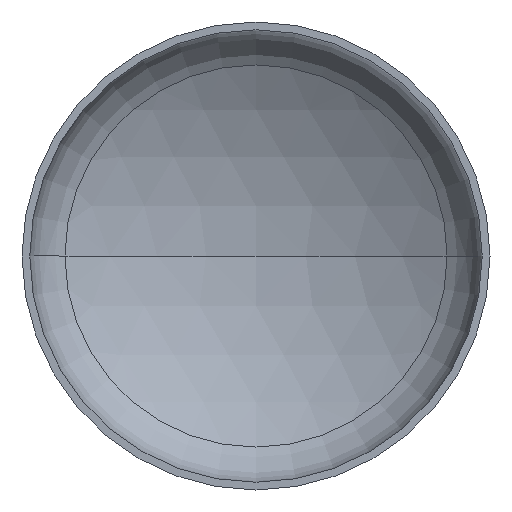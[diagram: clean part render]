
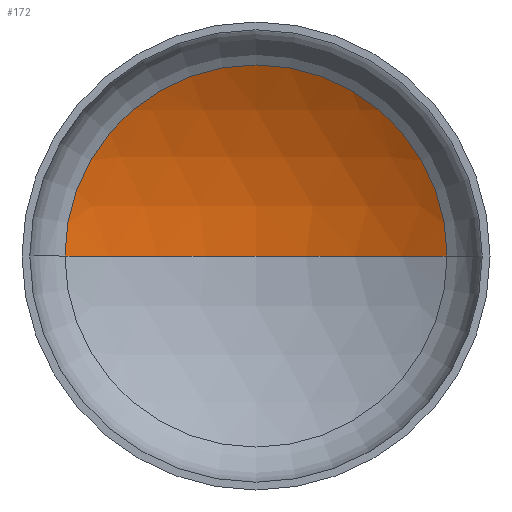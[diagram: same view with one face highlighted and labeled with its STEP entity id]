
A CAD part, front view. The second image highlights one B-rep face of the part: STEP entity #172.
In plain terms, the highlighted spherical face has radius 1200 mm.
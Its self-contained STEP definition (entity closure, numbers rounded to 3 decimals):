
#3 = EDGE_LOOP ( 'NONE', ( #102, #63, #96 ) ) ;
#7 = AXIS2_PLACEMENT_3D ( 'NONE', #360, #215, #380 ) ;
#8 = DIRECTION ( 'NONE',  ( 0., 0., -1. ) ) ;
#16 = VERTEX_POINT ( 'NONE', #369 ) ;
#31 = AXIS2_PLACEMENT_3D ( 'NONE', #182, #8, #353 ) ;
#38 = AXIS2_PLACEMENT_3D ( 'NONE', #298, #301, #47 ) ;
#47 = DIRECTION ( 'NONE',  ( 1., 0., 0. ) ) ;
#51 = DIRECTION ( 'NONE',  ( -1., 0., 0. ) ) ;
#57 = SPHERICAL_SURFACE ( 'NONE', #78, 1200. ) ;
#63 = ORIENTED_EDGE ( 'NONE', *, *, #352, .T. ) ;
#69 = VERTEX_POINT ( 'NONE', #238 ) ;
#78 = AXIS2_PLACEMENT_3D ( 'NONE', #228, #202, #51 ) ;
#96 = ORIENTED_EDGE ( 'NONE', *, *, #344, .T. ) ;
#102 = ORIENTED_EDGE ( 'NONE', *, *, #391, .F. ) ;
#107 = VERTEX_POINT ( 'NONE', #240 ) ;
#172 = ADVANCED_FACE ( 'NONE', ( #179 ), #57, .F. ) ;
#179 = FACE_OUTER_BOUND ( 'NONE', #3, .T. ) ;
#182 = CARTESIAN_POINT ( 'NONE',  ( 0., -759.191, 0. ) ) ;
#198 = CIRCLE ( 'NONE', #7, 1200. ) ;
#202 = DIRECTION ( 'NONE',  ( 0., 0., -1. ) ) ;
#215 = DIRECTION ( 'NONE',  ( 0., 0., 1. ) ) ;
#228 = CARTESIAN_POINT ( 'NONE',  ( 0., -759.191, 0. ) ) ;
#238 = CARTESIAN_POINT ( 'NONE',  ( -612.371, 272.798, 0. ) ) ;
#240 = CARTESIAN_POINT ( 'NONE',  ( 0., 440.809, 0. ) ) ;
#272 = CIRCLE ( 'NONE', #38, 612.371 ) ;
#298 = CARTESIAN_POINT ( 'NONE',  ( 0., 272.798, 0. ) ) ;
#301 = DIRECTION ( 'NONE',  ( 0., -1., 0. ) ) ;
#334 = CIRCLE ( 'NONE', #31, 1200. ) ;
#344 = EDGE_CURVE ( 'NONE', #16, #69, #272, .T. ) ;
#352 = EDGE_CURVE ( 'NONE', #107, #16, #334, .T. ) ;
#353 = DIRECTION ( 'NONE',  ( -1., 0., 0. ) ) ;
#360 = CARTESIAN_POINT ( 'NONE',  ( 0., -759.191, 0. ) ) ;
#369 = CARTESIAN_POINT ( 'NONE',  ( 612.371, 272.798, 0. ) ) ;
#380 = DIRECTION ( 'NONE',  ( 1., 0., 0. ) ) ;
#391 = EDGE_CURVE ( 'NONE', #107, #69, #198, .T. ) ;
